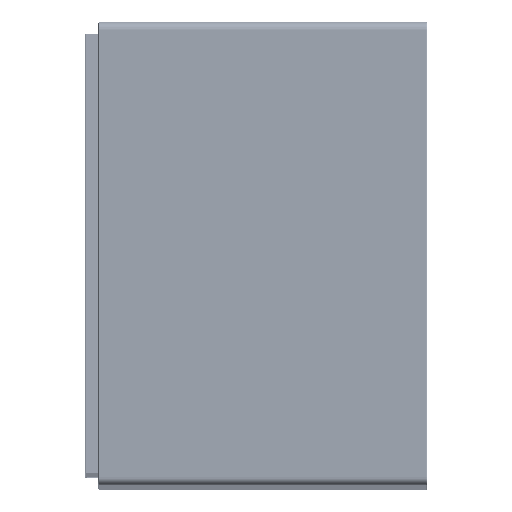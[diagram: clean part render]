
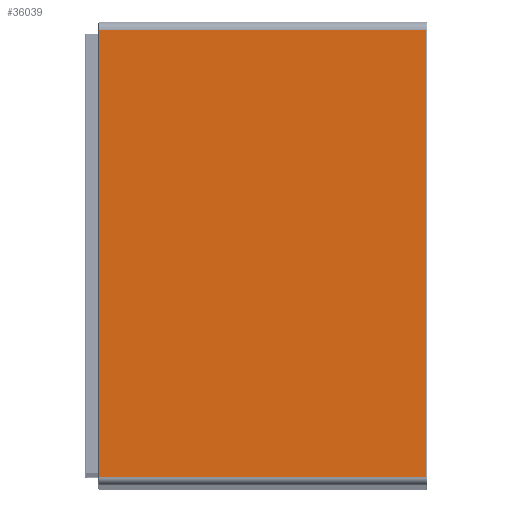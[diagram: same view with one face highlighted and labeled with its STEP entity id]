
A CAD part, top view. The second image highlights one B-rep face of the part: STEP entity #36039.
In plain terms, the highlighted planar face has unit normal (0, 0, 1) as drawn and (0, 1, 0) by its records, which use the part's own axes.
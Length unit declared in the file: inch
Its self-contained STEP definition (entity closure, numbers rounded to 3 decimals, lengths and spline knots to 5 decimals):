
#4024 = FACE_OUTER_BOUND ( 'NONE', #81235, .T. ) ;
#9563 = DIRECTION ( 'NONE',  ( 0., 0., 1. ) ) ;
#12063 = LINE ( 'NONE', #139454, #44710 ) ;
#15325 = PLANE ( 'NONE',  #27338 ) ;
#25201 = DIRECTION ( 'NONE',  ( 0., 0., 1. ) ) ;
#27338 = AXIS2_PLACEMENT_3D ( 'NONE', #133463, #36534, #25201 ) ;
#28076 = LINE ( 'NONE', #81165, #118636 ) ;
#30768 = LINE ( 'NONE', #128412, #41481 ) ;
#35626 = VERTEX_POINT ( 'NONE', #83698 ) ;
#36039 = ADVANCED_FACE ( 'NONE', ( #4024 ), #15325, .T. ) ;
#36534 = DIRECTION ( 'NONE',  ( 0., 1., 0. ) ) ;
#40086 = ORIENTED_EDGE ( 'NONE', *, *, #129533, .T. ) ;
#41481 = VECTOR ( 'NONE', #9563, 39.37008 ) ;
#44710 = VECTOR ( 'NONE', #130202, 39.37008 ) ;
#48080 = VERTEX_POINT ( 'NONE', #109294 ) ;
#51941 = EDGE_CURVE ( 'NONE', #48080, #135229, #28076, .T. ) ;
#60841 = VERTEX_POINT ( 'NONE', #92674 ) ;
#64581 = CARTESIAN_POINT ( 'NONE',  ( -1.8625, 0.1, -2.53125 ) ) ;
#81165 = CARTESIAN_POINT ( 'NONE',  ( 1.8625, 0.1, 2.53125 ) ) ;
#81235 = EDGE_LOOP ( 'NONE', ( #85675, #40086, #127833, #138410 ) ) ;
#83698 = CARTESIAN_POINT ( 'NONE',  ( 1.8525, 0.1, -2.53125 ) ) ;
#85675 = ORIENTED_EDGE ( 'NONE', *, *, #105362, .T. ) ;
#92674 = CARTESIAN_POINT ( 'NONE',  ( -1.8525, 0.1, -2.53125 ) ) ;
#102419 = DIRECTION ( 'NONE',  ( 1., 0., 0. ) ) ;
#105362 = EDGE_CURVE ( 'NONE', #35626, #60841, #118411, .T. ) ;
#109294 = CARTESIAN_POINT ( 'NONE',  ( -1.8525, 0.1, 2.53125 ) ) ;
#109684 = VECTOR ( 'NONE', #139657, 39.37008 ) ;
#118411 = LINE ( 'NONE', #64581, #109684 ) ;
#118636 = VECTOR ( 'NONE', #102419, 39.37008 ) ;
#122420 = CARTESIAN_POINT ( 'NONE',  ( 1.8525, 0.1, 2.53125 ) ) ;
#127833 = ORIENTED_EDGE ( 'NONE', *, *, #51941, .T. ) ;
#128412 = CARTESIAN_POINT ( 'NONE',  ( -1.8525, 0.1, 2.53125 ) ) ;
#129533 = EDGE_CURVE ( 'NONE', #60841, #48080, #30768, .T. ) ;
#130202 = DIRECTION ( 'NONE',  ( 0., 0., -1. ) ) ;
#133463 = CARTESIAN_POINT ( 'NONE',  ( 0., 0.1, 0. ) ) ;
#135229 = VERTEX_POINT ( 'NONE', #122420 ) ;
#138410 = ORIENTED_EDGE ( 'NONE', *, *, #139551, .T. ) ;
#139454 = CARTESIAN_POINT ( 'NONE',  ( 1.8525, 0.1, -2.53125 ) ) ;
#139551 = EDGE_CURVE ( 'NONE', #135229, #35626, #12063, .T. ) ;
#139657 = DIRECTION ( 'NONE',  ( -1., 0., 0. ) ) ;
